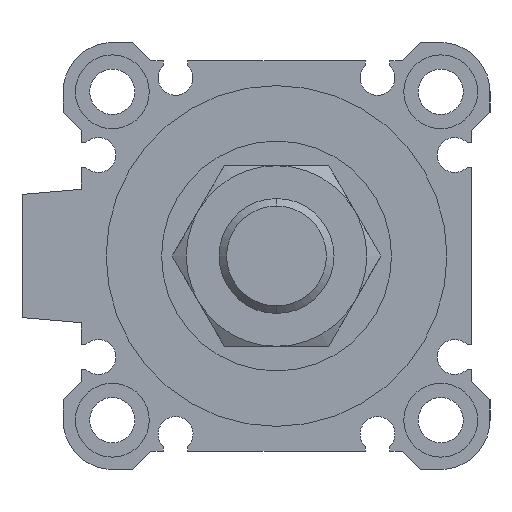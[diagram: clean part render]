
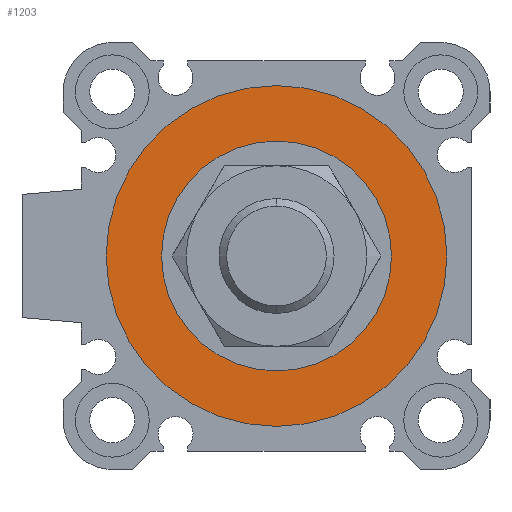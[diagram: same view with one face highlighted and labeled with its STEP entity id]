
A CAD part, left-side view. The second image highlights one B-rep face of the part: STEP entity #1203.
In plain terms, the highlighted planar face has unit normal (-1, 0, 0).
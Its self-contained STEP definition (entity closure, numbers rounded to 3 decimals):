
#51 = CARTESIAN_POINT ( 'NONE',  ( 3.3, 0., 0. ) ) ;
#86 = CARTESIAN_POINT ( 'NONE',  ( 3.3, 0., -20.75 ) ) ;
#384 = CIRCLE ( 'NONE', #1291, 20.75 ) ;
#443 = ORIENTED_EDGE ( 'NONE', *, *, #1678, .F. ) ;
#475 = CARTESIAN_POINT ( 'NONE',  ( 3.3, 0., 0. ) ) ;
#585 = FACE_BOUND ( 'NONE', #2929, .T. ) ;
#616 = DIRECTION ( 'NONE',  ( 1., 0., 0. ) ) ;
#684 = FACE_OUTER_BOUND ( 'NONE', #2768, .T. ) ;
#1144 = CARTESIAN_POINT ( 'NONE',  ( 3.3, 0., 0. ) ) ;
#1203 = ADVANCED_FACE ( 'NONE', ( #684, #585 ), #2776, .F. ) ;
#1291 = AXIS2_PLACEMENT_3D ( 'NONE', #1144, #2302, #3295 ) ;
#1401 = VERTEX_POINT ( 'NONE', #2512 ) ;
#1669 = AXIS2_PLACEMENT_3D ( 'NONE', #475, #6940, #4221 ) ;
#1678 = EDGE_CURVE ( 'NONE', #2371, #2653, #4346, .T. ) ;
#1714 = EDGE_CURVE ( 'NONE', #2653, #2371, #384, .T. ) ;
#2040 = DIRECTION ( 'NONE',  ( 1., 0., 0. ) ) ;
#2302 = DIRECTION ( 'NONE',  ( 1., 0., 0. ) ) ;
#2371 = VERTEX_POINT ( 'NONE', #5581 ) ;
#2500 = CARTESIAN_POINT ( 'NONE',  ( 3.3, 0., 0. ) ) ;
#2512 = CARTESIAN_POINT ( 'NONE',  ( 3.3, 0., 14. ) ) ;
#2653 = VERTEX_POINT ( 'NONE', #86 ) ;
#2768 = EDGE_LOOP ( 'NONE', ( #443, #6841 ) ) ;
#2776 = PLANE ( 'NONE',  #4146 ) ;
#2929 = EDGE_LOOP ( 'NONE', ( #4164, #3231 ) ) ;
#3213 = EDGE_CURVE ( 'NONE', #1401, #5430, #6299, .T. ) ;
#3231 = ORIENTED_EDGE ( 'NONE', *, *, #5254, .T. ) ;
#3239 = AXIS2_PLACEMENT_3D ( 'NONE', #2500, #2040, #4096 ) ;
#3295 = DIRECTION ( 'NONE',  ( 0., 0., -1. ) ) ;
#3436 = AXIS2_PLACEMENT_3D ( 'NONE', #51, #6032, #6497 ) ;
#4096 = DIRECTION ( 'NONE',  ( 0., 0., -1. ) ) ;
#4146 = AXIS2_PLACEMENT_3D ( 'NONE', #5519, #616, #4939 ) ;
#4164 = ORIENTED_EDGE ( 'NONE', *, *, #3213, .T. ) ;
#4221 = DIRECTION ( 'NONE',  ( 0., 0., -1. ) ) ;
#4346 = CIRCLE ( 'NONE', #3436, 20.75 ) ;
#4939 = DIRECTION ( 'NONE',  ( 0., 1., 0. ) ) ;
#5254 = EDGE_CURVE ( 'NONE', #5430, #1401, #5865, .T. ) ;
#5419 = CARTESIAN_POINT ( 'NONE',  ( 3.3, 0., -14. ) ) ;
#5430 = VERTEX_POINT ( 'NONE', #5419 ) ;
#5519 = CARTESIAN_POINT ( 'NONE',  ( 3.3, 0., 0. ) ) ;
#5581 = CARTESIAN_POINT ( 'NONE',  ( 3.3, 0., 20.75 ) ) ;
#5865 = CIRCLE ( 'NONE', #1669, 14. ) ;
#6032 = DIRECTION ( 'NONE',  ( 1., 0., 0. ) ) ;
#6299 = CIRCLE ( 'NONE', #3239, 14. ) ;
#6497 = DIRECTION ( 'NONE',  ( 0., 0., -1. ) ) ;
#6841 = ORIENTED_EDGE ( 'NONE', *, *, #1714, .F. ) ;
#6940 = DIRECTION ( 'NONE',  ( 1., 0., 0. ) ) ;
